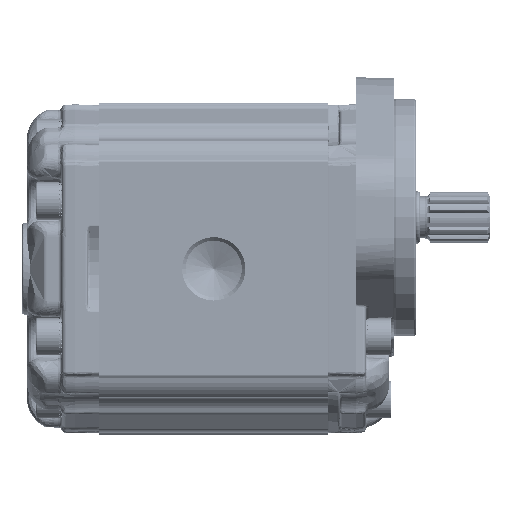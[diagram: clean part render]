
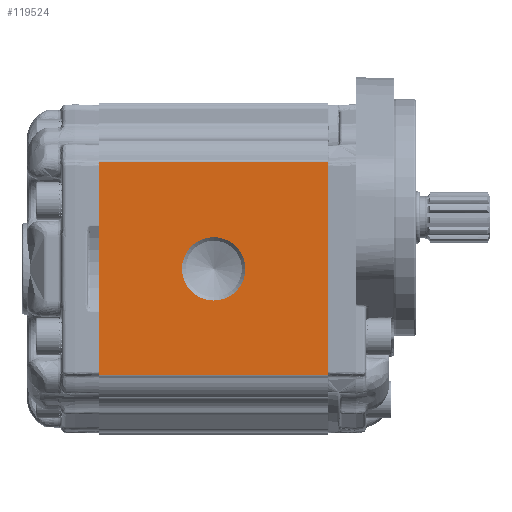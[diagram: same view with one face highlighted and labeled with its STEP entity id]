
A CAD part, left-side view. The second image highlights one B-rep face of the part: STEP entity #119524.
In plain terms, the highlighted planar face has unit normal (-1, 0, 0) as drawn and (1, 0, 0) by its records, which use the part's own axes.
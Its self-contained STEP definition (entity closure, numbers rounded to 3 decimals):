
#7405=PLANE('',#125932);
#10184=LINE('',#217628,#15003);
#10195=LINE('',#217712,#15014);
#10241=LINE('',#217862,#15060);
#10242=LINE('',#217863,#15061);
#15003=VECTOR('',#139305,1000.);
#15014=VECTOR('',#139380,1000.);
#15060=VECTOR('',#139542,1000.);
#15061=VECTOR('',#139543,1000.);
#30771=ORIENTED_EDGE('',*,*,#52047,.T.);
#30772=ORIENTED_EDGE('',*,*,#51926,.F.);
#30773=ORIENTED_EDGE('',*,*,#52048,.T.);
#30774=ORIENTED_EDGE('',*,*,#51968,.F.);
#30775=ORIENTED_EDGE('',*,*,#52049,.T.);
#51926=EDGE_CURVE('',#63446,#63447,#10184,.T.);
#51968=EDGE_CURVE('',#63488,#63489,#10195,.T.);
#52047=EDGE_CURVE('',#63533,#63533,#70231,.F.);
#52048=EDGE_CURVE('',#63446,#63489,#10241,.F.);
#52049=EDGE_CURVE('',#63488,#63447,#10242,.F.);
#63446=VERTEX_POINT('',#217627);
#63447=VERTEX_POINT('',#217629);
#63488=VERTEX_POINT('',#217713);
#63489=VERTEX_POINT('',#217714);
#63533=VERTEX_POINT('',#217861);
#70231=CIRCLE('',#125933,13.559);
#74588=EDGE_LOOP('',(#30771));
#74589=EDGE_LOOP('',(#30772,#30773,#30774,#30775));
#79737=FACE_BOUND('',#74588,.T.);
#79738=FACE_BOUND('',#74589,.T.);
#119524=ADVANCED_FACE('',(#79737,#79738),#7405,.T.);
#125932=AXIS2_PLACEMENT_3D('',#217859,#139538,#139539);
#125933=AXIS2_PLACEMENT_3D('',#217860,#139540,#139541);
#139305=DIRECTION('',(0.,0.,-1.));
#139380=DIRECTION('',(0.,0.,1.));
#139538=DIRECTION('',(1.,0.,0.));
#139539=DIRECTION('',(0.,0.,1.));
#139540=DIRECTION('',(1.,0.,0.));
#139541=DIRECTION('',(0.,0.,1.));
#139542=DIRECTION('',(0.,1.,0.));
#139543=DIRECTION('',(0.,-1.,0.));
#217627=CARTESIAN_POINT('',(57.5,98.,45.5));
#217628=CARTESIAN_POINT('',(57.5,98.,91.388));
#217629=CARTESIAN_POINT('',(57.5,98.,-45.5));
#217712=CARTESIAN_POINT('',(57.5,0.,-44.978));
#217713=CARTESIAN_POINT('',(57.5,0.,-45.5));
#217714=CARTESIAN_POINT('',(57.5,0.,45.5));
#217859=CARTESIAN_POINT('',(57.5,-135.113,91.388));
#217860=CARTESIAN_POINT('',(57.5,49.,0.));
#217861=CARTESIAN_POINT('',(57.5,49.,13.559));
#217862=CARTESIAN_POINT('',(57.5,-135.113,45.5));
#217863=CARTESIAN_POINT('',(57.5,-135.113,-45.5));
